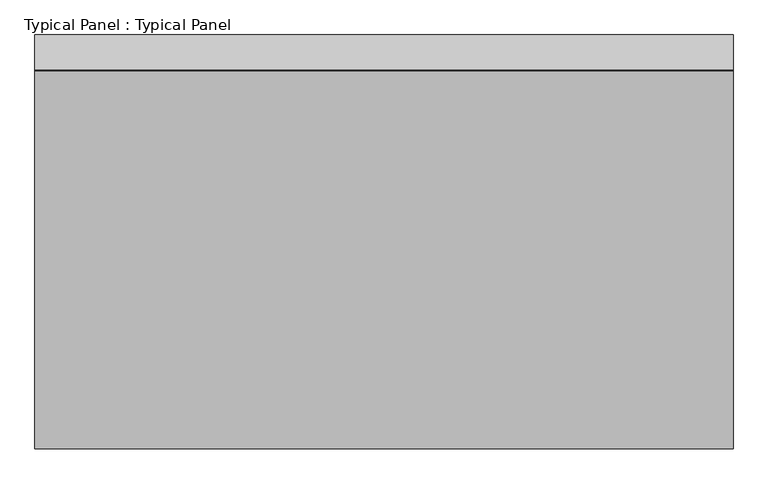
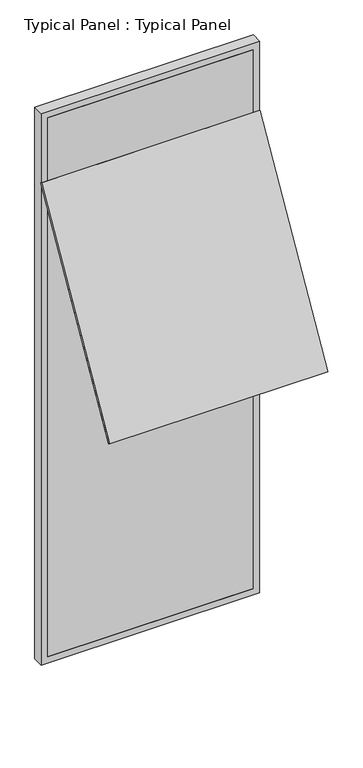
"""IFC4 building model written with IfcOpenShell, lengths in millimetres: plate geometry, Typical Panel : Typical Panel."""

import ifcopenshell
import ifcopenshell.guid

model = None  # the IFC model being written
_history = None  # IfcOwnerHistory: only IFC2X3 demands one
_inside = {}  # id of a spatial element -> (the spatial element, [elements in it])
_under = {}  # id of a project, library or spatial element -> (it, [spatial elements below it])
_declared = {}  # id of a project -> (the project, [libraries it declares])
_typed = {}  # id of a type object -> (the type object, [elements of that type])
_made_of = {}  # id of a material, layer set ... -> (it, [elements and type objects made of it])


def new_model(schema):
    """Start an empty IFC model of exactly this schema.

    Asked for "IFC4X3", IfcOpenShell would pick the latest addendum, in which some entities
    have other attributes; the version numbers below select the first issue.
    IFC2X3 requires an IfcOwnerHistory on every rooted entity: one is made here for all.
    """
    global model, _history
    if schema == "IFC4X3":
        model = ifcopenshell.file(schema_version=(4, 3, 0, 0))
    else:
        model = ifcopenshell.file(schema=schema)
    _inside.clear()
    _under.clear()
    _declared.clear()
    _typed.clear()
    _made_of.clear()
    _history = None
    if model.schema == "IFC2X3":
        org = make("IfcOrganization", Name="unknown")
        user = make(
            "IfcPersonAndOrganization",
            ThePerson=make("IfcPerson", FamilyName="unknown"),
            TheOrganization=org,
        )
        app = make(
            "IfcApplication",
            ApplicationDeveloper=org,
            Version="unknown",
            ApplicationFullName="unknown",
            ApplicationIdentifier="unknown",
        )
        _history = make(
            "IfcOwnerHistory",
            OwningUser=user,
            OwningApplication=app,
            ChangeAction="ADDED",
            CreationDate=0,
        )
    return model


def make(cls, **values):
    """One entity of the class cls with the attributes given. An attribute that is None is left unset."""
    return model.create_entity(
        cls, **{name: value for name, value in values.items() if value is not None}
    )


def rooted(cls, **values):
    """An entity with a GlobalId (a new one), such as an element, a storey or a relation."""
    return make(cls, GlobalId=ifcopenshell.guid.new(), OwnerHistory=_history, **values)


def si_unit(unit_type, name, prefix=None):
    """IfcSIUnit, for example si_unit("LENGTHUNIT", "METRE", prefix="MILLI")."""
    return make("IfcSIUnit", UnitType=unit_type, Prefix=prefix, Name=name)


def assignment(units):
    """IfcUnitAssignment: the units of a project."""
    return None if units is None else make("IfcUnitAssignment", Units=units)


def point(xyz):
    """IfcCartesianPoint."""
    return None if xyz is None else make("IfcCartesianPoint", Coordinates=xyz)


def direction(xyz):
    """IfcDirection."""
    return None if xyz is None else make("IfcDirection", DirectionRatios=xyz)


def frame(location, z_axis=None, x_axis=None):
    """IfcAxis2Placement3D, a coordinate frame: its origin and axes. An axis left out is left unset."""
    return make(
        "IfcAxis2Placement3D",
        Location=point(location),
        Axis=direction(z_axis),
        RefDirection=direction(x_axis),
    )


def origin():
    """The frame at (0, 0, 0) with its axes left unset."""
    return frame((0.0, 0.0, 0.0))


def place(relative_to, where):
    """IfcLocalPlacement: puts the frame where relative to a parent placement (None: the world)."""
    return make(
        "IfcLocalPlacement", PlacementRelTo=relative_to, RelativePlacement=where
    )


def context(
    kind, dimensions, precision=None, world=None, true_north=None, identifier=None
):
    """IfcGeometricRepresentationContext, for example the 3D "Model" context."""
    return make(
        "IfcGeometricRepresentationContext",
        ContextIdentifier=identifier,
        ContextType=kind,
        CoordinateSpaceDimension=dimensions,
        Precision=precision,
        WorldCoordinateSystem=world,
        TrueNorth=true_north,
    )


def project(units=None, contexts=None):
    """IfcProject with its units and contexts."""
    return rooted(
        "IfcProject",
        Name="project",
        RepresentationContexts=contexts,
        UnitsInContext=assignment(units),
    )


def spatial(cls, under=None, at=None, **own):
    """A site, building, storey or space (cls), placed at a placement, below another one or the project."""
    s = rooted(cls, ObjectPlacement=at, **own)
    if under is not None:
        _under.setdefault(under.id(), (under, []))[1].append(s)
    return s


def polyline(points):
    """IfcPolyline through the points."""
    return make("IfcPolyline", Points=[point(p) for p in points])


def outline(outer, holes=None, kind="AREA"):
    """IfcArbitraryClosedProfileDef: a profile drawn as a closed curve; with holes, ...WithVoids."""
    if holes is None:
        return make("IfcArbitraryClosedProfileDef", ProfileType=kind, OuterCurve=outer)
    return make(
        "IfcArbitraryProfileDefWithVoids",
        ProfileType=kind,
        OuterCurve=outer,
        InnerCurves=holes,
    )


def extrude(swept, where, along, depth):
    """IfcExtrudedAreaSolid: the profile swept, set in the frame where, extruded along a direction by depth."""
    return make(
        "IfcExtrudedAreaSolid",
        SweptArea=swept,
        Position=where,
        ExtrudedDirection=direction(along),
        Depth=depth,
    )


def shape(context_of_items, identifier, shape_type, items):
    """IfcShapeRepresentation: the items that make up one representation, for example the "Body"."""
    return make(
        "IfcShapeRepresentation",
        ContextOfItems=context_of_items,
        RepresentationIdentifier=identifier,
        RepresentationType=shape_type,
        Items=items,
    )


def source(mapping_origin, context_of_items, identifier, shape_type, items):
    """IfcRepresentationMap: a shape defined once, which mapped items show again and again."""
    return make(
        "IfcRepresentationMap",
        MappingOrigin=mapping_origin,
        MappedRepresentation=shape(context_of_items, identifier, shape_type, items),
    )


def transform(
    local_origin,
    x_axis=None,
    y_axis=None,
    z_axis=None,
    scale=None,
    scale2=None,
    scale3=None,
    uniform=True,
):
    """IfcCartesianTransformationOperator3D, or its non-uniform kind. x_axis, y_axis, z_axis: its Axis1, 2, 3."""
    if uniform:
        return make(
            "IfcCartesianTransformationOperator3D",
            Axis1=direction(x_axis),
            Axis2=direction(y_axis),
            LocalOrigin=point(local_origin),
            Scale=scale,
            Axis3=direction(z_axis),
        )
    return make(
        "IfcCartesianTransformationOperator3DnonUniform",
        Axis1=direction(x_axis),
        Axis2=direction(y_axis),
        LocalOrigin=point(local_origin),
        Scale=scale,
        Axis3=direction(z_axis),
        Scale2=scale2,
        Scale3=scale3,
    )


def mapped(mapping_source, mapping_target):
    """IfcMappedItem: shows the shape of a source again, moved by a transform."""
    return make(
        "IfcMappedItem", MappingSource=mapping_source, MappingTarget=mapping_target
    )


def made_of(thing, what):
    """Note that an element or type object is made of a material, layer set ...; save() writes the relation."""
    if what is not None:
        _made_of.setdefault(what.id(), (what, []))[1].append(thing)
    return thing


def element(
    cls,
    number,
    at=None,
    inside=None,
    cuts=None,
    type_object=None,
    material=None,
    context=None,
    identifier="Body",
    shape_type=None,
    held_by="IfcProductDefinitionShape",
    body=None,
    shapes=None,
    **own,
):
    """One element of the class cls, such as IfcWall. Its Tag is "e" and its number.

    at: its placement. inside: the storey or other place that contains it. cuts: it is an
    opening in that element (IfcRelVoidsElement). A single representation is given by context,
    identifier, shape_type and body (its items); several are given by shapes. held_by: the class
    of the entity that holds the representations. save() writes the other relations.
    """
    e = rooted(cls, Tag="e%d" % number, ObjectPlacement=at, **own)
    if body is not None:
        shapes = [shape(context, identifier, shape_type, body)]
    if shapes is not None:
        e.Representation = make(held_by, Representations=shapes)
    if inside is not None:
        _inside.setdefault(inside.id(), (inside, []))[1].append(e)
    if cuts is not None:
        rooted(
            "IfcRelVoidsElement", RelatingBuildingElement=cuts, RelatedOpeningElement=e
        )
    if type_object is not None:
        _typed.setdefault(type_object.id(), (type_object, []))[1].append(e)
    return made_of(e, material)


def aggregate(whole, parts):
    """IfcRelAggregates: a whole, such as a stair, and the parts it consists of."""
    return rooted("IfcRelAggregates", RelatingObject=whole, RelatedObjects=parts)


def save(model, path):
    """Write the relations noted so far, then the file.

    IfcRelAggregates (storeys below a building ...), IfcRelContainedInSpatialStructure (elements
    in a storey), IfcRelDefinesByType, IfcRelAssociatesMaterial and IfcRelDeclares: one each for
    every whole, place, type object, material and project.
    """
    for whole, parts in _under.values():
        aggregate(whole, parts)
    for where, things in _inside.values():
        rooted(
            "IfcRelContainedInSpatialStructure",
            RelatedElements=things,
            RelatingStructure=where,
        )
    for kind, things in _typed.values():
        rooted("IfcRelDefinesByType", RelatedObjects=things, RelatingType=kind)
    for what, things in _made_of.values():
        rooted("IfcRelAssociatesMaterial", RelatedObjects=things, RelatingMaterial=what)
    for by, libraries in _declared.values():
        rooted("IfcRelDeclares", RelatingContext=by, RelatedDefinitions=libraries)
    model.write(path)


def typical_panel_typical_panel_135e8f23(model_context):
    return source(origin(), model_context, "Body", "SweptSolid", [
        extrude(outline(polyline([(0.0, -10.0), (0.0, 0.0), (1500.00002, 0.0), (1500.00002, -10.0), (0.0, -10.0)])), frame((750.00001, -815.0, 2097.0388459), z_axis=(0.0, 0.5000000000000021, 0.8660254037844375), x_axis=(-1.0, 0.0, 0.0)), (0.0, 0.0, 1.0), 1620.0),
        extrude(outline(polyline([(0.0, -750.00001), (0.0, 750.00001), (4000.0, 750.00001), (4000.0, -750.00001), (0.0, -750.00001)]), holes=[polyline([(45.0, 705.00001), (45.0, -705.00001), (3955.0, -705.00001), (3955.0, 705.00001), (45.0, 705.00001)])]), frame((0.0, -1.5797986, 0.0), z_axis=(0.0, 1.0, 0.0), x_axis=(0.0, 0.0, 1.0)), (0.0, 0.0, 1.0), 75.0),
        extrude(outline(polyline([(705.00001, -1.5797986), (-705.00001, -1.5797986), (-705.00001, 13.4202014), (705.00001, 13.4202014), (705.00001, -1.5797986)])), frame((0.0, 0.0, 45.0), z_axis=(0.0, 0.0, 1.0), x_axis=(1.0, 0.0, 0.0)), (0.0, 0.0, 1.0), 3910.0),
    ])


if __name__ == "__main__":
    model = new_model("IFC4")
    model_context = context("Model", 3, world=origin())
    ifc_project = project(units=[si_unit("LENGTHUNIT", "METRE", prefix="MILLI")], contexts=[model_context])
    site = spatial("IfcSite", under=ifc_project)
    building = spatial("IfcBuilding", under=site)
    placement = place(None, origin())
    typical_panel_typical_panel_shape = typical_panel_typical_panel_135e8f23(model_context)
    element("IfcPlate", 1, ObjectType="Typical Panel : Typical Panel", at=placement, inside=building, context=model_context, shape_type="MappedRepresentation", body=[
        mapped(typical_panel_typical_panel_shape, transform((0.0, 0.0, 0.0), x_axis=(1.0, 0.0, 0.0), y_axis=(0.0, 1.0, 0.0), z_axis=(0.0, 0.0, 1.0))),
    ])
    save(model, "model.ifc")
